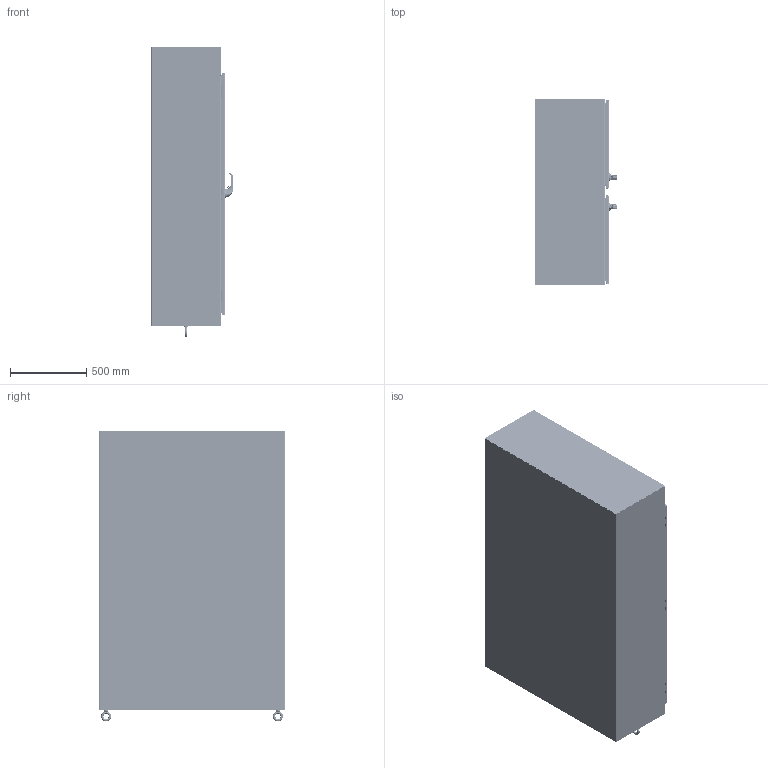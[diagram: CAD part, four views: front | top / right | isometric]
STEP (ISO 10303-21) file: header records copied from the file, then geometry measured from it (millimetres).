
FILE_DESCRIPTION((''),'2;1');
FILE_NAME('MODEL-233_ASM','2026-04-27T09:44:58',('johnh'),('SAGINAW CONTROL & ENGINEERING'),'CREO PARAMETRIC BY PTC INC, 2021284','CREO PARAMETRIC BY PTC INC, 2021284','');
FILE_SCHEMA(('AUTOMOTIVE_DESIGN { 1 0 10303 214 1 1 1 1 }'));
Length unit declared in the file: inch
Products named in the file (81): MODEL-233-L-SD; MODEL-233-TP; MODEL-233-BTM; MODEL-233-R-SD; MODEL-233-BCK; MODEL-233-RH-DR; 100837; 111267; 100882; 100955_SCREW_MTG; 100955_PADLOCK_CATCH; 100955_SCREW_LARGE; 100955_INSERT_SHAFT; 100955_INSERT_PKH; 100955_GASKET; 100955_O-RING; 100955_BASE; 100955_SPRING; 100955_HANDLE; 100955_CAM_SHAFT; 100955_HANDLE_ASM; 100955_CAM_ADAPTER; 100955_EARTH_NUT; 100955_FLANGE_NUT; 100955_CAM_NUT; 100955_KEY_INSERT; 100955_SPRING_CAM; 100955_TORSION_SPRING; 100955_SCREW_INSERT; 100955_ASM; 102236; 100030; 102236_ASM; MODEL-233-ROD-UPR-RH; 128146; 128145; 128144; 102482; MODEL-233-ROD-UPR-RH_ASM; 128143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
Assembly tree (187 placements, depth 5):
  MODEL-233_ASM
    MODEL-233-L-SD
    MODEL-233-TP
    MODEL-233-BTM
    MODEL-233-R-SD
    MODEL-233-BCK
    MODEL-233-RH-DOOR-ASSY_ASM
      MODEL-233-RH-DR
      100837  x5
      111267
      100882  x10
      100955_ASM
        100955_SCREW_MTG
        100955_PADLOCK_CATCH
        100955_SCREW_LARGE  x2
        100955_INSERT_SHAFT
        100955_INSERT_PKH
        100955_GASKET
        100955_O-RING
        100955_BASE
        100955_SPRING
        100955_HANDLE_ASM
          100955_HANDLE
          100955_CAM_SHAFT
        100955_CAM_ADAPTER
        100955_EARTH_NUT
        100955_FLANGE_NUT
        100955_CAM_NUT
        100955_KEY_INSERT
        100955_SPRING_CAM
        100955_TORSION_SPRING
        100955_SCREW_INSERT
      102236_ASM
        102236
        100030  x2
      MODEL-233-ROD-UPR-RH_ASM
        MODEL-233-ROD-UPR-RH
        128146
        128145
        128144
        102482  x2
      128143  x2
      112504  x2
      MODEL-233-ROD-LWR-RH_ASM
        MODEL-233-ROD-LWR-RH
        128146
        128145
        128144
        102482  x2
      MODEL-233-RH-PR-GS
      128258_ASM  x3
        128258
      126395  x3
      102483  x3
      101383_ASM  x3
        101383
        101383-STUD
      101221  x3
      125597
    MODEL-233-LH-DOOR-ASSY_ASM
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Bounding box: 535.45 x 1219.2 x 1903.6 mm (x, y, z)
Volume: 24436303.4 mm3; surface area: 18091983 mm2
Topology: 229 solids, 229 shells, 21925 faces, 56084 edges, 34532 vertices
Faces by surface type: plane 7716, cylinder 5641, bspline 4984, torus 1590, cone 1306, sphere 572, extrusion 116
Entity records: 415132 total; most frequent: CARTESIAN_POINT 167211, ORIENTED_EDGE 38120, DIRECTION 34484, PRESENTATION_STYLE_ASSIGNMENT 19379, STYLED_ITEM 19372, EDGE_CURVE 19060, CURVE_STYLE 19012, AXIS2_PLACEMENT_3D 12640
